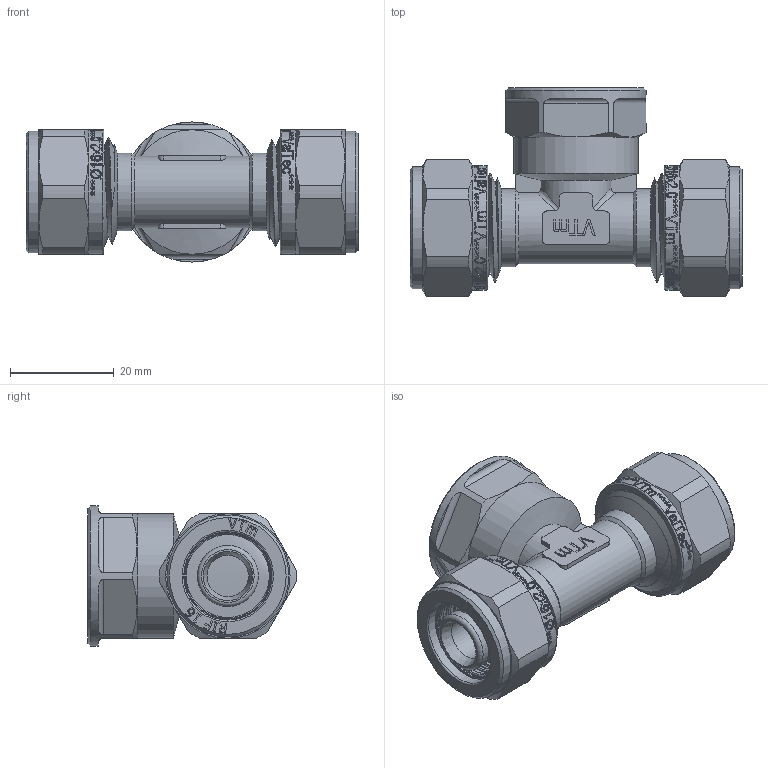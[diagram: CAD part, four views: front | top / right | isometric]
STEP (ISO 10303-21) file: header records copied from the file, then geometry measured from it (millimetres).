
FILE_DESCRIPTION(/* description */ (''),/* implementation_level */ '2;1');
FILE_NAME(/* name */ 'E:\Артём\00000\Работа удаленка\Обжимные фитинги\VTm.332.N.160416.stp',/* time_stamp */ '2020-07-08T13:57:23+03:00',/* author */ ('BeN_GaN'),/* organization */ (''),/* preprocessor_version */ 'ST-DEVELOPER v18',/* originating_system */ 'Autodesk Inventor 2020',/* authorisation */ '');
FILE_SCHEMA (('AUTOMOTIVE_DESIGN { 1 0 10303 214 3 1 1 }'));
Length unit declared in the file: millimetre
Products named in the file (1): VTm.332.N.160416
Bounding box: 64 x 40.19 x 27 mm (x, y, z)
Volume: 17339.9 mm3; surface area: 15787.9 mm2
Topology: 1 solids, 3 shells, 1455 faces, 4070 edges, 2730 vertices
Faces by surface type: bspline 722, plane 438, cylinder 189, cone 54, torus 50, sphere 2
Full cylindrical faces by diameter (mm): 8 x1, 9.4 x4, 10 x1, 11.75 x8, 15 x2, 16 x8, 16.2 x2, 16.6 x10, 17 x2, 17.4 x6, 18.6 x11, 22.2 x7, 23.5 x2, 24 x3, 27 x1
Entity records: 63646 total; most frequent: CARTESIAN_POINT 30864, ORIENTED_EDGE 8142, DIRECTION 4574, EDGE_CURVE 4071, VERTEX_POINT 2731, LINE 1748, VECTOR 1748, B_SPLINE_CURVE_WITH_KNOTS 1573
